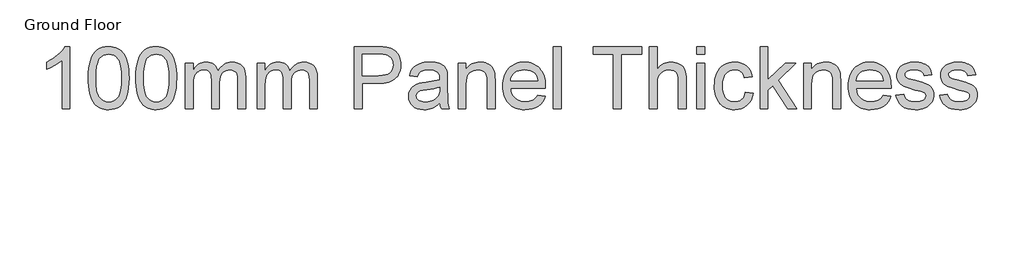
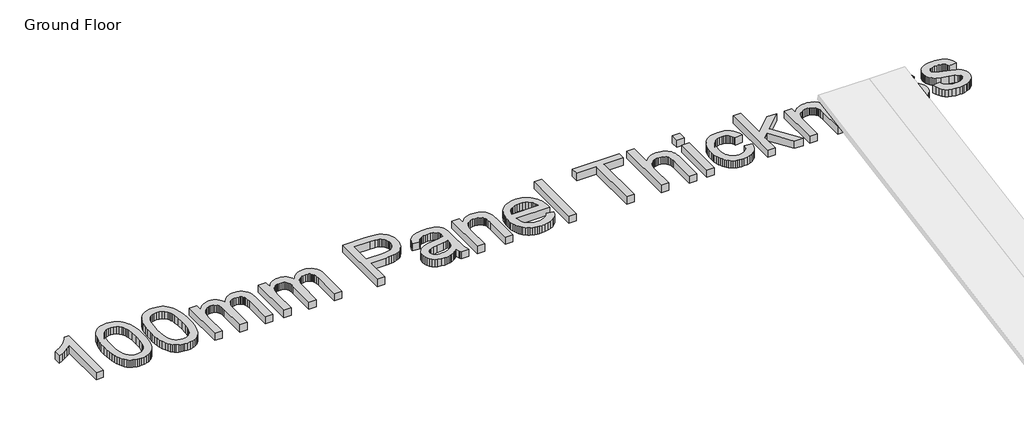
# One storey, part 5 of 5: 1 proxy.
"""IFC4 building model written with IfcOpenShell, lengths in millimetres."""

from ifc_helpers import new_model, si_unit, origin, origin_with_axes, place, context, project, spatial, polyline, outline, extrude, element, save

model = new_model("IFC4")

# Units and contexts
model_context = context("Model", 3, world=origin())
ifc_project = project(units=[si_unit("LENGTHUNIT", "METRE", prefix="MILLI")], contexts=[model_context])

# Site, building, storey
site = spatial("IfcSite", under=ifc_project)
building = spatial("IfcBuilding", under=site)
storey = spatial("IfcBuildingStorey", under=building, Name="Ground Floor", Elevation=0.0)

# Proxy
placement = place(None, origin())
element("IfcBuildingElementProxy", 1, Name="1200mm Arial", ObjectType="1200mm Arial", at=placement, inside=storey, context=model_context, shape_type="SweptSolid", body=[
    extrude(outline(polyline([(13867.9925063, -37488.8663729), (13721.0834154, -37488.8663729), (13721.0834154, -36572.9800092), (13659.7517393, -36622.5833473), (13581.9214836, -36672.1149524), (13500.2176484, -36715.4057905), (13427.2652336, -36746.2868274), (13427.2652336, -36607.4118274), (13486.8842854, -36577.5171186), (13542.647691, -36544.6454922), (13594.5554502, -36508.7969481), (13642.6075631, -36469.9714865), (13685.3693707, -36429.9624311), (13721.4062137, -36390.5631058), (13750.7180922, -36351.7735106), (13773.3050063, -36313.5936456), (13867.9925063, -36313.5936456), (13867.9925063, -37488.8663729)])), origin_with_axes(), (0.0, 0.0, 1.0), 150.0),
    extrude(outline(polyline([(14216.9015972, -36910.6987592), (14219.6005496, -36811.8776477), (14227.6974069, -36722.5790859), (14241.1921689, -36642.8030739), (14260.0848359, -36572.5496115), (14284.294708, -36511.2448352), (14313.7410859, -36458.3148814), (14348.4239694, -36413.75975), (14388.3433586, -36377.579441), (14433.6337528, -36349.5856555), (14484.4296512, -36329.5900945), (14540.7310539, -36317.5927578), (14602.5379609, -36313.5936456), (14648.9850489, -36315.9608331), (14693.0649495, -36323.0623956), (14734.7776626, -36334.8983331), (14774.1231881, -36351.4686456), (14810.1510645, -36372.4953679), (14841.9108302, -36397.7005348), (14869.402485, -36427.0841463), (14892.626029, -36460.6462024), (14912.7471228, -36498.2522038), (14930.9314268, -36539.7676513), (14961.4896654, -36634.5268842), (14973.1642037, -36690.2544233), (14981.5031597, -36754.8589155), (14986.5065333, -36828.3403608), (14988.1743245, -36910.6987592), (14985.5022719, -37008.8922074), (14977.4861143, -37097.7424382), (14964.1258515, -37177.2494517), (14945.4214836, -37247.4132479), (14921.3999104, -37308.744924), (14892.0880319, -37361.7555774), (14857.4858479, -37406.4452081), (14817.5933586, -37442.813816), (14772.2491647, -37470.9959006), (14721.2918671, -37491.1259609), (14664.7214658, -37503.2039972), (14602.5379609, -37507.2300092), (14560.9328472, -37505.4815185), (14521.6231881, -37500.2360462), (14484.6089836, -37491.4935923), (14449.8902336, -37479.254157), (14417.4669381, -37463.51774), (14387.3390972, -37444.2843416), (14359.5067109, -37421.5539616), (14333.969779, -37395.3266001), (14306.5319239, -37353.7977028), (14282.7524495, -37306.8260675), (14262.6313557, -37254.4116942), (14246.1686427, -37196.5545831), (14233.3643103, -37133.254734), (14224.2183586, -37064.512147), (14218.7307876, -36990.3268221), (14216.9015972, -36910.6987592)]), holes=[polyline([(14363.8106881, -36910.4118274), (14368.1146654, -37038.1233864), (14381.0265972, -37141.4995405), (14390.7105461, -37184.0618407), (14402.5464836, -37220.5402898), (14416.5344097, -37250.9348876), (14432.6743245, -37275.2456342), (14469.1146654, -37312.466071), (14509.5720518, -37339.0520973), (14554.0464836, -37355.0037131), (14602.5379609, -37360.3209183), (14651.0294381, -37354.9857798), (14695.5038699, -37338.9803643), (14735.9612563, -37312.3046719), (14772.4015972, -37274.9587024), (14788.541512, -37250.5896728), (14802.5294381, -37220.1636918), (14814.3653756, -37183.6807594), (14824.0493245, -37141.1408757), (14836.9612563, -37037.8902543), (14841.2652336, -36910.4118274), (14837.1047222, -36786.0806839), (14824.6231881, -36684.5247535), (14815.2620376, -36642.2874932), (14803.8206313, -36605.7440362), (14790.2989694, -36574.8943824), (14774.6970518, -36549.738532), (14738.866441, -36510.6978714), (14697.9427904, -36482.8116854), (14651.9261001, -36466.0799737), (14600.8163699, -36460.5027365), (14552.575958, -36465.4164439), (14508.8547222, -36480.157566), (14469.6526626, -36504.726103), (14434.969779, -36539.1220547), (14418.2918671, -36566.954441), (14403.8376768, -36600.095066), (14391.607208, -36638.5439297), (14381.6004609, -36682.301032), (14368.2581313, -36785.7399524), (14363.8106881, -36910.4118274)])]), origin_with_axes(), (0.0, 0.0, 1.0), 150.0),
    extrude(outline(polyline([(15116.719779, -36910.6987592), (15119.4187314, -36811.8776477), (15127.5155887, -36722.5790859), (15141.0103508, -36642.8030739), (15159.9030177, -36572.5496115), (15184.1128898, -36511.2448352), (15213.5592677, -36458.3148814), (15248.2421512, -36413.75975), (15288.1615404, -36377.579441), (15333.4519346, -36349.5856555), (15384.247833, -36329.5900945), (15440.5492357, -36317.5927578), (15502.3561427, -36313.5936456), (15548.8032307, -36315.9608331), (15592.8831313, -36323.0623956), (15634.5958444, -36334.8983331), (15673.9413699, -36351.4686456), (15709.9692464, -36372.4953679), (15741.729012, -36397.7005348), (15769.2206668, -36427.0841463), (15792.4442109, -36460.6462024), (15812.5653046, -36498.2522038), (15830.7496086, -36539.7676513), (15861.3078472, -36634.5268842), (15872.9823856, -36690.2544233), (15881.3213415, -36754.8589155), (15886.3247151, -36828.3403608), (15887.9925063, -36910.6987592), (15885.3204537, -37008.8922074), (15877.3042961, -37097.7424382), (15863.9440333, -37177.2494517), (15845.2396654, -37247.4132479), (15821.2180922, -37308.744924), (15791.9062137, -37361.7555774), (15757.3040297, -37406.4452081), (15717.4115404, -37442.813816), (15672.0673465, -37470.9959006), (15621.1100489, -37491.1259609), (15564.5396476, -37503.2039972), (15502.3561427, -37507.2300092), (15460.751029, -37505.4815185), (15421.4413699, -37500.2360462), (15384.4271654, -37491.4935923), (15349.7084154, -37479.254157), (15317.2851199, -37463.51774), (15287.157279, -37444.2843416), (15259.3248927, -37421.5539616), (15233.7879609, -37395.3266001), (15206.3501057, -37353.7977028), (15182.5706313, -37306.8260675), (15162.4495376, -37254.4116942), (15145.9868245, -37196.5545831), (15133.1824921, -37133.254734), (15124.0365404, -37064.512147), (15118.5489694, -36990.3268221), (15116.719779, -36910.6987592)]), holes=[polyline([(15263.6288699, -36910.4118274), (15267.9328472, -37038.1233864), (15280.844779, -37141.4995405), (15290.5287279, -37184.0618407), (15302.3646654, -37220.5402898), (15316.3525915, -37250.9348876), (15332.4925063, -37275.2456342), (15368.9328472, -37312.466071), (15409.3902336, -37339.0520973), (15453.8646654, -37355.0037131), (15502.3561427, -37360.3209183), (15550.8476199, -37354.9857798), (15595.3220518, -37338.9803643), (15635.7794381, -37312.3046719), (15672.219779, -37274.9587024), (15688.3596938, -37250.5896728), (15702.3476199, -37220.1636918), (15714.1835574, -37183.6807594), (15723.8675063, -37141.1408757), (15736.7794381, -37037.8902543), (15741.0834154, -36910.4118274), (15736.922904, -36786.0806839), (15724.4413699, -36684.5247535), (15715.0802194, -36642.2874932), (15703.6388131, -36605.7440362), (15690.1171512, -36574.8943824), (15674.5152336, -36549.738532), (15638.6846228, -36510.6978714), (15597.7609722, -36482.8116854), (15551.7442819, -36466.0799737), (15500.6345518, -36460.5027365), (15452.3941398, -36465.4164439), (15408.672904, -36480.157566), (15369.4708444, -36504.726103), (15334.7879609, -36539.1220547), (15318.1100489, -36566.954441), (15303.6558586, -36600.095066), (15291.4253898, -36638.5439297), (15281.4186427, -36682.301032), (15268.0763131, -36785.7399524), (15263.6288699, -36910.4118274)])]), origin_with_axes(), (0.0, 0.0, 1.0), 150.0),
    extrude(outline(polyline([(16053.2652336, -37488.8663729), (16053.2652336, -36625.7754638), (16200.1743245, -36625.7754638), (16200.1743245, -36767.8067138), (16220.6899495, -36733.4197287), (16244.3618245, -36702.5655916), (16271.1899495, -36675.2443025), (16301.1743245, -36651.4558615), (16333.830752, -36632.1865966), (16368.6750347, -36618.4228359), (16405.7071725, -36610.1645795), (16444.9271654, -36607.4118274), (16487.805539, -36610.2183793), (16526.6310006, -36618.6380348), (16561.4035503, -36632.670794), (16592.1231881, -36652.316657), (16618.7002478, -36677.0196932), (16641.0450631, -36706.2239723), (16659.1576341, -36739.9294943), (16673.0379609, -36778.1362592), (16698.8707911, -36738.1227205), (16726.5866114, -36703.4443203), (16756.1854218, -36674.1010586), (16787.6672222, -36650.0929354), (16821.0320127, -36631.4199506), (16856.2797932, -36618.0821044), (16893.4105638, -36610.0793967), (16932.4243245, -36607.4118274), (16991.2363806, -36611.850304), (17042.857208, -36625.1657337), (17087.2868067, -36647.3581165), (17124.5251768, -36678.4274524), (17153.962588, -36718.7324062), (17174.9893103, -36768.6316427), (17187.6053437, -36828.1251619), (17191.8106881, -36897.2129638), (17191.8106881, -37488.8663729), (17044.9015972, -37488.8663729), (17044.9015972, -36960.3379638), (17041.4942819, -36887.0627507), (17031.2723359, -36837.6746115), (17023.0768458, -36819.8579389), (17012.119637, -36803.8525234), (16998.4007094, -36789.658365), (16981.9200631, -36777.2754638), (16963.2784616, -36767.2328501), (16943.0766682, -36760.0595547), (16897.9925063, -36754.3209183), (16856.3604928, -36757.9972322), (16818.4047932, -36769.026174), (16784.1254076, -36787.4077436), (16753.5223359, -36813.141941), (16728.3530354, -36846.9819623), (16710.3749637, -36889.6810035), (16699.5881207, -36941.2390646), (16695.9925063, -37001.6561456), (16695.9925063, -37488.8663729), (16549.0834154, -37488.8663729), (16549.0834154, -36943.9828501), (16546.9583266, -36899.4725518), (16540.5830603, -36860.9160888), (16529.9576164, -36828.3134609), (16515.0819949, -36801.6646683), (16495.3643991, -36780.9517777), (16470.2130319, -36766.1568558), (16439.6278934, -36757.2799027), (16403.6089836, -36754.3209183), (16374.7544026, -36756.2935746), (16347.0116824, -36762.2115433), (16320.3808231, -36772.0748246), (16294.8618245, -36785.8834183), (16271.6203472, -36803.4938587), (16251.8220518, -36824.7626797), (16235.4669381, -36849.6898814), (16222.5550063, -36878.2754638), (16212.763458, -36912.0437521), (16205.7694949, -36952.5190717), (16200.1743245, -37053.5908047), (16200.1743245, -37488.8663729), (16053.2652336, -37488.8663729)])), origin_with_axes(), (0.0, 0.0, 1.0), 150.0),
    extrude(outline(polyline([(17412.1743245, -37488.8663729), (17412.1743245, -36625.7754638), (17559.0834154, -36625.7754638), (17559.0834154, -36767.8067138), (17579.5990404, -36733.4197287), (17603.2709154, -36702.5655916), (17630.0990404, -36675.2443025), (17660.0834154, -36651.4558615), (17692.739843, -36632.1865966), (17727.5841256, -36618.4228359), (17764.6162634, -36610.1645795), (17803.8362563, -36607.4118274), (17846.7146299, -36610.2183793), (17885.5400915, -36618.6380348), (17920.3126412, -36632.670794), (17951.032279, -36652.316657), (17977.6093387, -36677.0196932), (17999.954154, -36706.2239723), (18018.0667251, -36739.9294943), (18031.9470518, -36778.1362592), (18057.779882, -36738.1227205), (18085.4957023, -36703.4443203), (18115.0945127, -36674.1010586), (18146.5763131, -36650.0929354), (18179.9411036, -36631.4199506), (18215.1888841, -36618.0821044), (18252.3196547, -36610.0793967), (18291.3334154, -36607.4118274), (18350.1454715, -36611.850304), (18401.7662989, -36625.1657337), (18446.1958976, -36647.3581165), (18483.4342677, -36678.4274524), (18512.8716789, -36718.7324062), (18533.8984012, -36768.6316427), (18546.5144346, -36828.1251619), (18550.719779, -36897.2129638), (18550.719779, -37488.8663729), (18403.8106881, -37488.8663729), (18403.8106881, -36960.3379638), (18400.4033728, -36887.0627507), (18390.1814268, -36837.6746115), (18381.9859367, -36819.8579389), (18371.0287279, -36803.8525234), (18357.3098003, -36789.658365), (18340.829154, -36777.2754638), (18322.1875525, -36767.2328501), (18301.9857591, -36760.0595547), (18256.9015972, -36754.3209183), (18215.2695837, -36757.9972322), (18177.3138841, -36769.026174), (18143.0344985, -36787.4077436), (18112.4314268, -36813.141941), (18087.2621263, -36846.9819623), (18069.2840546, -36889.6810035), (18058.4972116, -36941.2390646), (18054.9015972, -37001.6561456), (18054.9015972, -37488.8663729), (17907.9925063, -37488.8663729), (17907.9925063, -36943.9828501), (17905.8674175, -36899.4725518), (17899.4921512, -36860.9160888), (17888.8667073, -36828.3134609), (17873.9910859, -36801.6646683), (17854.27349, -36780.9517777), (17829.1221228, -36766.1568558), (17798.5369843, -36757.2799027), (17762.5180745, -36754.3209183), (17733.6634935, -36756.2935746), (17705.9207734, -36762.2115433), (17679.289914, -36772.0748246), (17653.7709154, -36785.8834183), (17630.5294381, -36803.4938587), (17610.7311427, -36824.7626797), (17594.376029, -36849.6898814), (17581.4640972, -36878.2754638), (17571.6725489, -36912.0437521), (17564.6785859, -36952.5190717), (17559.0834154, -37053.5908047), (17559.0834154, -37488.8663729), (17412.1743245, -37488.8663729)])), origin_with_axes(), (0.0, 0.0, 1.0), 150.0),
    extrude(outline(polyline([(19248.5379609, -37488.8663729), (19248.5379609, -36313.5936456), (19684.1004609, -36313.5936456), (19785.5308586, -36316.3912308), (19859.7027336, -36324.7839865), (19900.581551, -36333.5981733), (19937.9992535, -36345.6941427), (19971.9558408, -36361.0718949), (20002.4513131, -36379.7314297), (20029.8084687, -36402.0583118), (20054.3501057, -36428.4381058), (20076.0762243, -36458.8708118), (20094.9868245, -36493.3564297), (20110.3018103, -36530.7561989), (20121.2410859, -36569.9313587), (20127.8046512, -36610.8819091), (20129.9925063, -36653.6078501), (20124.0835042, -36725.7532692), (20116.6972515, -36759.6605401), (20106.3564978, -36792.1241854), (20093.061243, -36823.1442049), (20076.8114871, -36852.7205987), (20057.6072302, -36880.8533668), (20035.4484722, -36907.5425092), (20009.4340679, -36931.8868807), (19978.6628721, -36952.9853359), (19943.1348847, -36970.837875), (19902.8501057, -36985.4444979), (19857.8085352, -36996.8052045), (19808.0101732, -37004.919995), (19753.4550196, -37009.7888693), (19694.1430745, -37011.4118274), (19395.4470518, -37011.4118274), (19395.4470518, -37488.8663729), (19248.5379609, -37488.8663729)]), holes=[polyline([(19395.4470518, -36864.5027365), (19702.751029, -36864.5027365), (19773.4079893, -36861.1312876), (19833.0180745, -36851.016941), (19881.5812847, -36834.1596967), (19919.0976199, -36810.5595547), (19947.0914055, -36780.8441783), (19967.0869665, -36745.6412308), (19979.0843032, -36704.9507123), (19983.0834154, -36658.7726229), (19980.7251945, -36624.4842706), (19973.6505319, -36592.7783047), (19961.8594275, -36563.6547251), (19945.3518813, -36537.113532), (19925.0066221, -36514.0155206), (19901.7023785, -36495.2214865), (19875.4391505, -36480.7314297), (19846.2169381, -36470.5453501), (19789.547904, -36463.0133899), (19699.3078472, -36460.5027365), (19395.4470518, -36460.5027365), (19395.4470518, -36864.5027365)])]), origin_with_axes(), (0.0, 0.0, 1.0), 150.0),
    extrude(outline(polyline([(20864.5379609, -37378.6845547), (20829.7026448, -37411.3768487), (20794.3472648, -37438.8685035), (20758.4718209, -37461.1595192), (20722.0763131, -37478.2498956), (20684.7482769, -37490.9286953), (20646.0752478, -37499.9849808), (20606.0572258, -37505.4187521), (20564.6942109, -37507.2300092), (20499.2827229, -37502.8722322), (20441.9232591, -37489.7989013), (20392.6158195, -37468.0100163), (20351.360404, -37437.5055774), (20318.784676, -37400.2223743), (20295.5162989, -37358.0971967), (20281.5552726, -37311.1300447), (20276.9015972, -37259.3209183), (20278.6590546, -37228.1708828), (20283.9314268, -37198.4196399), (20292.7187137, -37170.0671896), (20305.0209154, -37143.113532), (20320.1834687, -37118.1504638), (20337.5518103, -37095.769782), (20357.1259403, -37075.9714865), (20378.9058586, -37058.7555774), (20427.5049353, -37030.7797251), (20481.7709154, -37010.551032), (20534.6381029, -36999.2889581), (20608.8817109, -36988.457282), (20759.0905177, -36965.2158047), (20817.0866114, -36952.088674), (20863.6771654, -36937.957282), (20864.5379609, -36905.2470547), (20862.0093742, -36869.6316427), (20854.4236143, -36839.6831342), (20841.780681, -36815.4015291), (20824.0805745, -36796.7868274), (20793.4864694, -36778.2079922), (20756.2211995, -36764.9373956), (20712.2847648, -36756.9750376), (20661.6771654, -36754.3209183), (20614.6203472, -36756.0873423), (20574.1629609, -36761.3866143), (20540.3050063, -36770.2187344), (20513.0464836, -36782.5837024), (20490.6478685, -36799.4499133), (20471.369637, -36821.7857621), (20455.211789, -36849.5912486), (20442.1743245, -36882.8663729), (20295.2652336, -36864.5027365), (20306.4466079, -36822.1802933), (20320.7662989, -36784.1618274), (20338.2243067, -36750.4473388), (20358.8206313, -36721.0368274), (20383.442968, -36695.3384964), (20412.979012, -36672.760549), (20447.4287634, -36653.3029851), (20486.7922222, -36636.9658047), (20530.2713593, -36624.0359396), (20577.0681455, -36614.8003217), (20627.1825809, -36609.258951), (20680.6146654, -36607.4118274), (20732.8452229, -36609.0437521), (20779.928941, -36613.9395263), (20821.8658195, -36622.0991498), (20858.6558586, -36633.5226229), (20890.6039232, -36647.4119162), (20918.0148785, -36662.9690007), (20940.8887243, -36680.1938764), (20959.2254609, -36699.0865433), (20974.0921157, -36720.1132656), (20986.5557165, -36743.7403075), (21004.2737563, -36798.7953501), (21009.6537279, -36849.582282), (21011.4470518, -36927.3408047), (21011.4470518, -37110.1163729), (21013.3121086, -37269.3276655), (21018.907279, -37365.3422251), (21029.954154, -37428.4313587), (21048.1743245, -37488.8663729), (20901.2652336, -37488.8663729), (20888.2098359, -37464.3337024), (20877.7368245, -37437.7925092), (20864.5379609, -37378.6845547)]), holes=[polyline([(20864.5379609, -37084.8663729), (20820.135262, -37097.5810391), (20765.8334154, -37109.3273104), (20627.532279, -37129.9146683), (20551.3160148, -37141.1767422), (20501.1388131, -37153.7300092), (20468.2492535, -37170.0133899), (20443.8959154, -37192.4658047), (20428.8319949, -37219.3656626), (20423.8106881, -37248.9913729), (20426.545507, -37271.8203856), (20434.7499637, -37292.6767422), (20448.4240582, -37311.5604425), (20467.5677904, -37328.4714865), (20492.001828, -37342.4056129), (20521.5468387, -37352.3585604), (20556.2028224, -37358.3303288), (20595.969779, -37360.3209183), (20636.5706313, -37358.1240966), (20674.876029, -37351.5336314), (20710.8859722, -37340.5495227), (20744.6004609, -37325.1717706), (20775.0152336, -37306.6736349), (20801.126029, -37286.3283757), (20822.9328472, -37264.1359929), (20840.4356881, -37240.0964865), (20850.6038344, -37218.5766001), (20857.8667961, -37192.4658047), (20862.2245731, -37161.7641001), (20863.6771654, -37126.4714865), (20864.5379609, -37084.8663729)])]), origin_with_axes(), (0.0, 0.0, 1.0), 150.0),
    extrude(outline(polyline([(21213.4470518, -37488.8663729), (21213.4470518, -36625.7754638), (21360.3561427, -36625.7754638), (21360.3561427, -36746.2868274), (21384.5929147, -36713.7379993), (21411.3941398, -36685.5290149), (21440.7598181, -36661.6598743), (21472.6899495, -36642.1305774), (21507.184534, -36626.9411243), (21544.2435716, -36616.0915149), (21583.8670624, -36609.5817493), (21626.0550063, -36607.4118274), (21663.0243778, -36609.1603182), (21698.4694239, -36614.4057905), (21732.3901448, -36623.1482443), (21764.7865404, -36635.3876797), (21794.4301839, -36650.4695334), (21820.0926484, -36667.7392422), (21841.7739339, -36687.1968061), (21859.4740404, -36708.8422251), (21886.194566, -36758.5890291), (21903.5180745, -36816.8720547), (21909.3284438, -36872.6085604), (21911.2652336, -36958.9033047), (21911.2652336, -37488.8663729), (21764.3561427, -37488.8663729), (21764.3561427, -36978.7016001), (21760.1238984, -36902.7364013), (21754.833593, -36872.9851584), (21747.4271654, -36848.7214865), (21737.3397187, -36828.2865611), (21724.0063557, -36810.0215575), (21707.4270766, -36793.9264758), (21687.6018813, -36780.001316), (21665.2122329, -36768.766142), (21640.9395944, -36760.7410177), (21614.7839658, -36755.9259432), (21586.7453472, -36754.3209183), (21542.1364161, -36757.9254993), (21500.7016682, -36768.7392422), (21462.4411036, -36786.762147), (21427.3547222, -36811.9942138), (21411.6519301, -36828.0310124), (21398.0428437, -36847.3047606), (21386.5274628, -36869.8154584), (21377.1057876, -36895.5631058), (21364.5435539, -36956.7692493), (21360.3561427, -37030.923191), (21360.3561427, -37488.8663729), (21213.4470518, -37488.8663729)])), origin_with_axes(), (0.0, 0.0, 1.0), 150.0),
    extrude(outline(polyline([(22717.5436427, -37231.7754638), (22861.5834154, -37250.1391001), (22839.498632, -37307.8303288), (22809.6846228, -37358.6710604), (22772.1413877, -37402.6612947), (22726.8689268, -37439.801032), (22674.3335042, -37469.3012095), (22615.0013841, -37490.3727649), (22548.8725667, -37503.0156981), (22475.9470518, -37507.2300092), (22429.127849, -37505.4120272), (22384.7923998, -37499.958081), (22342.9407041, -37490.8681706), (22303.572762, -37478.1422962), (22266.6885734, -37461.7804576), (22232.2881384, -37441.7826548), (22200.3714569, -37418.148888), (22170.938529, -37390.879157), (22144.5094186, -37360.3276433), (22121.6041895, -37326.8485284), (22102.2228419, -37290.4418123), (22086.3653756, -37251.107495), (22074.0317908, -37208.8455765), (22065.2220873, -37163.6560568), (22059.9362652, -37115.5389359), (22058.1743245, -37064.4942138), (22059.9541984, -37011.7122092), (22065.2938202, -36961.9698885), (22074.1931899, -36915.2672518), (22086.6523074, -36871.604299), (22102.6711729, -36830.9810302), (22122.2497861, -36793.3974453), (22145.3881473, -36758.8535444), (22172.0862563, -36727.3493274), (22201.6223003, -36699.2389758), (22233.2744665, -36674.8766712), (22267.0427549, -36654.2624133), (22302.9271654, -36637.3962024), (22340.9276981, -36624.2780383), (22381.0443529, -36614.9079212), (22423.2771299, -36609.2858508), (22467.626029, -36607.4118274), (22510.5245775, -36609.2813675), (22551.4190866, -36614.8899879), (22590.3095562, -36624.2376886), (22627.1959864, -36637.3244695), (22662.0783772, -36654.1503306), (22694.9567286, -36674.715272), (22725.8310406, -36699.0192937), (22754.7013131, -36727.0623956), (22780.8278002, -36758.4948796), (22803.4707556, -36792.9670476), (22822.6301794, -36830.4788995), (22838.3060716, -36871.0304354), (22850.4984323, -36914.6216552), (22859.2072613, -36961.2525589), (22864.4325587, -37010.9231467), (22866.1743245, -37063.6334183), (22865.313529, -37103.2300092), (22205.0834154, -37103.2300092), (22213.5927371, -37161.8537663), (22230.5127478, -37213.1966285), (22255.8434474, -37257.2585959), (22289.5848359, -37294.0396683), (22329.8718564, -37323.0377152), (22374.8394523, -37343.7506058), (22424.4876235, -37356.1783402), (22478.8163699, -37360.3209183), (22519.4530887, -37358.4020618), (22557.0052904, -37352.6454922), (22591.4729751, -37343.0512095), (22622.8561427, -37329.6192138), (22651.1547932, -37311.9908402), (22676.3689268, -37289.807424), (22698.4985432, -37263.0689652), (22717.5436427, -37231.7754638)]), holes=[polyline([(22205.0834154, -36956.3209183), (22719.2652336, -36956.3209183), (22711.7153401, -36914.7516712), (22699.3952052, -36878.7058615), (22682.3048287, -36848.1834893), (22660.4442109, -36823.1845547), (22620.3813557, -36793.0567138), (22574.7950631, -36771.5368274), (22523.685333, -36758.6248956), (22467.0521654, -36754.3209183), (22415.3954715, -36757.7551335), (22368.0248216, -36768.0577791), (22324.9402158, -36785.2288551), (22286.141654, -36809.2683615), (22253.5838593, -36839.0644375), (22229.2215546, -36873.5052223), (22213.05474, -36912.5907159), (22205.0834154, -36956.3209183)])]), origin_with_axes(), (0.0, 0.0, 1.0), 150.0),
    extrude(outline(polyline([(23013.0834154, -37488.8663729), (23013.0834154, -36313.5936456), (23159.9925063, -36313.5936456), (23159.9925063, -37488.8663729), (23013.0834154, -37488.8663729)])), origin_with_axes(), (0.0, 0.0, 1.0), 150.0),
    extrude(outline(polyline([(24151.6288699, -37488.8663729), (24151.6288699, -36460.5027365), (23765.9925063, -36460.5027365), (23765.9925063, -36313.5936456), (24684.1743245, -36313.5936456), (24684.1743245, -36460.5027365), (24298.5379609, -36460.5027365), (24298.5379609, -37488.8663729), (24151.6288699, -37488.8663729)])), origin_with_axes(), (0.0, 0.0, 1.0), 150.0),
    extrude(outline(polyline([(24831.0834154, -37488.8663729), (24831.0834154, -36313.5936456), (24977.9925063, -36313.5936456), (24977.9925063, -36745.7129638), (25004.1436515, -36713.2986349), (25031.9536214, -36685.2062166), (25061.4224158, -36661.4357088), (25092.5500347, -36641.9871115), (25125.3364783, -36626.8604247), (25159.7817464, -36616.0556484), (25195.885839, -36609.5727827), (25233.6487563, -36607.4118274), (25279.5757805, -36609.7700483), (25322.3824211, -36616.8447109), (25362.0686782, -36628.6358153), (25398.6345518, -36645.1433615), (25431.1475134, -36665.811419), (25458.6750347, -36690.0840575), (25481.2171157, -36717.961277), (25498.7737563, -36749.4430774), (25511.9546867, -36786.4752152), (25521.369637, -36831.0034467), (25527.0186072, -36883.027772), (25528.9015972, -36942.548191), (25528.9015972, -37488.8663729), (25381.9925063, -37488.8663729), (25381.9925063, -36957.7555774), (25379.0693884, -36908.1522393), (25370.3000347, -36865.7939297), (25355.6844452, -36830.6806484), (25335.2226199, -36802.8123956), (25309.3987563, -36781.5973743), (25278.6970518, -36766.4437876), (25243.1175063, -36757.3516356), (25202.6601199, -36754.3209183), (25171.142453, -36756.3653075), (25140.5752478, -36762.4984751), (25110.9585042, -36772.7204212), (25082.2922222, -36787.0311456), (25056.127627, -36804.8388516), (25034.0159438, -36825.5517422), (25015.9571725, -36849.1698175), (25001.9513131, -36875.6930774), (24991.4693351, -36906.3409822), (24983.982208, -36942.3329922), (24979.4899317, -36983.6691072), (24977.9925063, -37030.3493274), (24977.9925063, -37488.8663729), (24831.0834154, -37488.8663729)])), origin_with_axes(), (0.0, 0.0, 1.0), 150.0),
    extrude(outline(polyline([(25730.9015972, -37488.8663729), (25730.9015972, -36625.7754638), (25877.8106881, -36625.7754638), (25877.8106881, -37488.8663729), (25730.9015972, -37488.8663729)])), origin_with_axes(), (0.0, 0.0, 1.0), 150.0),
    extrude(outline(polyline([(25730.9015972, -36460.5027365), (25730.9015972, -36313.5936456), (25877.8106881, -36313.5936456), (25877.8106881, -36460.5027365), (25730.9015972, -36460.5027365)])), origin_with_axes(), (0.0, 0.0, 1.0), 150.0),
    extrude(outline(polyline([(26649.0834154, -37176.6845547), (26795.9925063, -37195.048191), (26780.0139907, -37264.369125), (26755.0329893, -37325.7097677), (26721.049502, -37379.0701193), (26678.063529, -37424.4501797), (26627.8863273, -37460.6663551), (26572.329154, -37486.5350518), (26511.3920091, -37502.0562699), (26445.0748927, -37507.2300092), (26402.8129742, -37505.4254771), (26362.6806278, -37500.0118807), (26324.6778534, -37490.98922), (26288.8046512, -37478.357495), (26255.061021, -37462.1167058), (26223.446963, -37442.2668523), (26193.962477, -37418.8079345), (26166.6075631, -37391.7399524), (26141.9605683, -37361.3005215), (26120.5998394, -37327.7272571), (26102.5253765, -37291.0201593), (26087.7371796, -37251.179228), (26076.2352487, -37208.2044632), (26068.0195837, -37162.095865), (26063.0901848, -37112.8534334), (26061.4470518, -37060.4771683), (26064.2536036, -36992.931625), (26072.6732591, -36929.7438587), (26086.7060184, -36870.9138693), (26106.3518813, -36816.441657), (26131.7453472, -36767.4211491), (26163.0209154, -36724.9462734), (26200.1785859, -36689.0170298), (26243.2183586, -36659.6334183), (26290.1944772, -36636.7864723), (26339.1611853, -36620.4672251), (26390.1184829, -36610.6756768), (26443.0663699, -36607.4118274), (26508.2447258, -36611.8951371), (26567.2002478, -36625.345066), (26619.932936, -36647.7616143), (26666.4427904, -36679.144782), (26705.9407485, -36718.7772393), (26737.6377478, -36765.941657), (26761.5337883, -36820.6380348), (26777.6288699, -36882.8663729), (26630.719779, -36901.2300092), (26619.2514729, -36866.9147571), (26604.0709864, -36837.1366143), (26585.1783195, -36811.895581), (26562.5734722, -36791.191657), (26536.8303082, -36775.0607088), (26508.522691, -36763.538603), (26477.6506207, -36756.6253395), (26444.2140972, -36754.3209183), (26394.2969275, -36758.8580277), (26349.2755319, -36772.4693558), (26309.1499104, -36795.1549027), (26273.9200631, -36826.9146683), (26258.5535193, -36846.3811989), (26245.2358479, -36868.4839155), (26224.7471228, -36920.597907), (26212.4538877, -36983.2566427), (26208.3561427, -37056.4601229), (26212.3642215, -37130.7664972), (26224.388458, -37194.1515291), (26244.4288522, -37246.6152187), (26257.4551084, -37268.7515602), (26272.485404, -37288.157566), (26307.015855, -37319.7290327), (26346.4779466, -37342.2800802), (26390.8716789, -37355.8107088), (26440.1970518, -37360.3209183), (26479.9460752, -37357.5053998), (26516.2698501, -37349.0588445), (26549.1683763, -37334.9812521), (26578.641654, -37315.2726229), (26603.8647542, -37289.7177578), (26624.0127478, -37258.1014581), (26639.0856349, -37220.4237237), (26649.0834154, -37176.6845547)])), origin_with_axes(), (0.0, 0.0, 1.0), 150.0),
    extrude(outline(polyline([(26924.5379609, -37488.8663729), (26924.5379609, -36313.5936456), (27071.4470518, -36313.5936456), (27071.4470518, -36945.1305774), (27400.844779, -36625.7754638), (27603.9925063, -36625.7754638), (27270.5777336, -36949.1476229), (27622.3561427, -37488.8663729), (27450.7709154, -37488.8663729), (27165.2737563, -37051.2953501), (27071.4470518, -37142.2527365), (27071.4470518, -37488.8663729), (26924.5379609, -37488.8663729)])), origin_with_axes(), (0.0, 0.0, 1.0), 150.0),
    extrude(outline(polyline([(27750.9015972, -37488.8663729), (27750.9015972, -36625.7754638), (27897.8106881, -36625.7754638), (27897.8106881, -36746.2868274), (27922.0474601, -36713.7379993), (27948.8486853, -36685.5290149), (27978.2143635, -36661.6598743), (28010.1444949, -36642.1305774), (28044.6390795, -36626.9411243), (28081.6981171, -36616.0915149), (28121.3216079, -36609.5817493), (28163.5095518, -36607.4118274), (28200.4789232, -36609.1603182), (28235.9239694, -36614.4057905), (28269.8446903, -36623.1482443), (28302.2410859, -36635.3876797), (28331.8847293, -36650.4695334), (28357.5471938, -36667.7392422), (28379.2284793, -36687.1968061), (28396.9285859, -36708.8422251), (28423.6491114, -36758.5890291), (28440.9726199, -36816.8720547), (28446.7829893, -36872.6085604), (28448.719779, -36958.9033047), (28448.719779, -37488.8663729), (28301.8106881, -37488.8663729), (28301.8106881, -36978.7016001), (28297.5784438, -36902.7364013), (28292.2881384, -36872.9851584), (28284.8817109, -36848.7214865), (28274.7942641, -36828.2865611), (28261.4609012, -36810.0215575), (28244.8816221, -36793.9264758), (28225.0564268, -36780.001316), (28202.6667783, -36768.766142), (28178.3941398, -36760.7410177), (28152.2385113, -36755.9259432), (28124.1998927, -36754.3209183), (28079.5909616, -36757.9254993), (28038.1562137, -36768.7392422), (27999.8956491, -36786.762147), (27964.8092677, -36811.9942138), (27949.1064756, -36828.0310124), (27935.4973891, -36847.3047606), (27923.9820083, -36869.8154584), (27914.560333, -36895.5631058), (27901.9980993, -36956.7692493), (27897.8106881, -37030.923191), (27897.8106881, -37488.8663729), (27750.9015972, -37488.8663729)])), origin_with_axes(), (0.0, 0.0, 1.0), 150.0),
    extrude(outline(polyline([(29254.9981881, -37231.7754638), (29399.0379609, -37250.1391001), (29376.9531775, -37307.8303288), (29347.1391682, -37358.6710604), (29309.5959332, -37402.6612947), (29264.3234722, -37439.801032), (29211.7880496, -37469.3012095), (29152.4559296, -37490.3727649), (29086.3271121, -37503.0156981), (29013.4015972, -37507.2300092), (28966.5823944, -37505.4120272), (28922.2469452, -37499.958081), (28880.3952496, -37490.8681706), (28841.0273074, -37478.1422962), (28804.1431189, -37461.7804576), (28769.7426839, -37441.7826548), (28737.8260024, -37418.148888), (28708.3930745, -37390.879157), (28681.963964, -37360.3276433), (28659.058735, -37326.8485284), (28639.6773873, -37290.4418123), (28623.8199211, -37251.107495), (28611.4863362, -37208.8455765), (28602.6766327, -37163.6560568), (28597.3908106, -37115.5389359), (28595.6288699, -37064.4942138), (28597.4087439, -37011.7122092), (28602.7483657, -36961.9698885), (28611.6477354, -36915.2672518), (28624.1068529, -36871.604299), (28640.1257183, -36830.9810302), (28659.7043316, -36793.3974453), (28682.8426927, -36758.8535444), (28709.5408018, -36727.3493274), (28739.0768458, -36699.2389758), (28770.729012, -36674.8766712), (28804.4973003, -36654.2624133), (28840.3817109, -36637.3962024), (28878.3822435, -36624.2780383), (28918.4988984, -36614.9079212), (28960.7316753, -36609.2858508), (29005.0805745, -36607.4118274), (29047.979123, -36609.2813675), (29088.873632, -36614.8899879), (29127.7641017, -36624.2376886), (29164.6505319, -36637.3244695), (29199.5329227, -36654.1503306), (29232.4112741, -36674.715272), (29263.285586, -36699.0192937), (29292.1558586, -36727.0623956), (29318.2823456, -36758.4948796), (29340.925301, -36792.9670476), (29360.0847249, -36830.4788995), (29375.7606171, -36871.0304354), (29387.9529777, -36914.6216552), (29396.6618067, -36961.2525589), (29401.8871041, -37010.9231467), (29403.6288699, -37063.6334183), (29402.7680745, -37103.2300092), (28742.5379609, -37103.2300092), (28751.0472826, -37161.8537663), (28767.9672932, -37213.1966285), (28793.2979928, -37257.2585959), (28827.0393813, -37294.0396683), (28867.3264019, -37323.0377152), (28912.2939978, -37343.7506058), (28961.9421689, -37356.1783402), (29016.2709154, -37360.3209183), (29056.9076341, -37358.4020618), (29094.4598359, -37352.6454922), (29128.9275205, -37343.0512095), (29160.3106881, -37329.6192138), (29188.6093387, -37311.9908402), (29213.8234722, -37289.807424), (29235.9530887, -37263.0689652), (29254.9981881, -37231.7754638)]), holes=[polyline([(28742.5379609, -36956.3209183), (29256.719779, -36956.3209183), (29249.1698856, -36914.7516712), (29236.8497506, -36878.7058615), (29219.7593742, -36848.1834893), (29197.8987563, -36823.1845547), (29157.8359012, -36793.0567138), (29112.2496086, -36771.5368274), (29061.1398785, -36758.6248956), (29004.5067109, -36754.3209183), (28952.850017, -36757.7551335), (28905.4793671, -36768.0577791), (28862.3947613, -36785.2288551), (28823.5961995, -36809.2683615), (28791.0384047, -36839.0644375), (28766.6761001, -36873.5052223), (28750.5092854, -36912.5907159), (28742.5379609, -36956.3209183)])]), origin_with_axes(), (0.0, 0.0, 1.0), 150.0),
    extrude(outline(polyline([(29495.4470518, -37231.7754638), (29642.3561427, -37213.4118274), (29651.2330958, -37246.9111172), (29665.525887, -37276.2498956), (29685.2345162, -37301.4281626), (29710.3589836, -37322.4459183), (29740.9710219, -37339.0162308), (29777.1423643, -37350.8521683), (29818.8730106, -37357.9537308), (29866.1629609, -37360.3209183), (29913.3991114, -37358.1509964), (29954.1075631, -37351.6412308), (29988.288316, -37340.7916214), (30015.9413699, -37325.6021683), (30037.2819239, -37307.4895973), (30052.5251768, -37287.8706342), (30061.6711285, -37266.7452791), (30064.719779, -37244.113532), (30061.6531952, -37224.27937), (30052.4534438, -37206.6689297), (30037.1205248, -37191.2822109), (30015.6544381, -37178.1192138), (29960.635262, -37159.4686456), (29864.4413699, -37136.2271683), (29730.3724779, -37097.4555064), (29643.2169381, -37064.3507479), (29613.2953295, -37047.7535355), (29587.2293671, -37028.2332052), (29565.019051, -37005.7897571), (29546.6643813, -36980.423191), (29532.2908905, -36952.8956697), (29522.0241114, -36923.9693558), (29515.8640439, -36893.6442493), (29513.8106881, -36861.9203501), (29515.4605461, -36832.9133366), (29520.4101199, -36805.0002507), (29528.6594097, -36778.1810923), (29540.2084154, -36752.4558615), (29554.608806, -36728.3446222), (29571.4122506, -36706.3674382), (29590.6187492, -36686.5243097), (29612.2283018, -36668.8152365), (29652.7932876, -36645.179228), (29705.6246086, -36625.345066), (29766.7052194, -36611.8951371), (29832.0180745, -36607.4118274), (29881.3882805, -36609.2141179), (29927.6381029, -36614.6209893), (29970.7675418, -36623.6324418), (30010.7765972, -36636.2484751), (30046.7148074, -36651.9400589), (30077.6317109, -36670.1781626), (30103.5273074, -36690.9627862), (30124.4015972, -36714.2939297), (30141.3305745, -36740.9875554), (30155.3902336, -36771.8596257), (30166.5805745, -36806.9101406), (30174.9015972, -36846.1391001), (30027.9925063, -36864.5027365), (30020.9895766, -36839.9610994), (30009.4495376, -36818.2708473), (29993.3723891, -36799.4319801), (29972.7581313, -36783.4444979), (29947.5170979, -36770.7029318), (29917.5596228, -36761.6018132), (29882.8857059, -36756.141142), (29843.4953472, -36754.3209183), (29797.8014552, -36756.0604425), (29759.1373927, -36761.2790149), (29727.5031597, -36769.9766356), (29702.8987563, -36782.1533047), (29684.4454537, -36796.6433615), (29671.2645234, -36812.2811456), (29663.3559651, -36829.066657), (29660.719779, -36846.9998956), (29665.0954893, -36869.5957763), (29678.2226199, -36889.7527365), (29700.6750347, -36907.7577081), (29733.0265972, -36922.176032), (29859.563529, -36953.4516001), (29989.3643103, -36991.8287308), (30075.1927904, -37022.6021683), (30105.3923643, -37037.6122891), (30132.1487563, -37055.6710604), (30155.4619665, -37076.7784822), (30175.3319949, -37100.9345547), (30191.2118778, -37128.1751442), (30202.5546512, -37158.5361172), (30209.3603153, -37192.0174737), (30211.6288699, -37228.6192138), (30208.965784, -37265.382353), (30200.9765262, -37301.0694979), (30187.6610965, -37335.6806484), (30169.0194949, -37369.2158047), (30145.3565866, -37400.3389403), (30116.9772364, -37427.7140291), (30083.8814445, -37451.341071), (30046.0692109, -37471.220066), (30004.5716966, -37486.9744162), (29960.4200631, -37498.2275234), (29913.6143103, -37504.9793878), (29864.1544381, -37507.2300092), (29785.086789, -37502.8901655), (29716.025887, -37489.8706342), (29656.9717322, -37468.1714155), (29607.9243245, -37437.7925092), (29567.8614694, -37398.8773814), (29535.7609722, -37351.5694979), (29511.622833, -37295.8688587), (29495.4470518, -37231.7754638)])), origin_with_axes(), (0.0, 0.0, 1.0), 150.0),
    extrude(outline(polyline([(30321.8106881, -37231.7754638), (30468.719779, -37213.4118274), (30477.5967322, -37246.9111172), (30491.8895234, -37276.2498956), (30511.5981526, -37301.4281626), (30536.7226199, -37322.4459183), (30567.3346583, -37339.0162308), (30603.5060006, -37350.8521683), (30645.2366469, -37357.9537308), (30692.5265972, -37360.3209183), (30739.7627478, -37358.1509964), (30780.4711995, -37351.6412308), (30814.6519523, -37340.7916214), (30842.3050063, -37325.6021683), (30863.6455603, -37307.4895973), (30878.8888131, -37287.8706342), (30888.0347648, -37266.7452791), (30891.0834154, -37244.113532), (30888.0168316, -37224.27937), (30878.8170802, -37206.6689297), (30863.4841611, -37191.2822109), (30842.0180745, -37178.1192138), (30786.9988984, -37159.4686456), (30690.8050063, -37136.2271683), (30556.7361143, -37097.4555064), (30469.5805745, -37064.3507479), (30439.6589658, -37047.7535355), (30413.5930035, -37028.2332052), (30391.3826874, -37005.7897571), (30373.0280177, -36980.423191), (30358.6545269, -36952.8956697), (30348.3877478, -36923.9693558), (30342.2276803, -36893.6442493), (30340.1743245, -36861.9203501), (30341.8241824, -36832.9133366), (30346.7737563, -36805.0002507), (30355.0230461, -36778.1810923), (30366.5720518, -36752.4558615), (30380.9724424, -36728.3446222), (30397.775887, -36706.3674382), (30416.9823856, -36686.5243097), (30438.5919381, -36668.8152365), (30479.1569239, -36645.179228), (30531.9882449, -36625.345066), (30593.0688557, -36611.8951371), (30658.3817109, -36607.4118274), (30707.7519168, -36609.2141179), (30754.0017393, -36614.6209893), (30797.1311782, -36623.6324418), (30837.1402336, -36636.2484751), (30873.0784438, -36651.9400589), (30903.9953472, -36670.1781626), (30929.8909438, -36690.9627862), (30950.7652336, -36714.2939297), (30967.6942109, -36740.9875554), (30981.7538699, -36771.8596257), (30992.9442109, -36806.9101406), (31001.2652336, -36846.1391001), (30854.3561427, -36864.5027365), (30847.353213, -36839.9610994), (30835.8131739, -36818.2708473), (30819.7360255, -36799.4319801), (30799.1217677, -36783.4444979), (30773.8807343, -36770.7029318), (30743.9232591, -36761.6018132), (30709.2493422, -36756.141142), (30669.8589836, -36754.3209183), (30624.1650915, -36756.0604425), (30585.501029, -36761.2790149), (30553.8667961, -36769.9766356), (30529.2623927, -36782.1533047), (30510.8090901, -36796.6433615), (30497.6281597, -36812.2811456), (30489.7196015, -36829.066657), (30487.0834154, -36846.9998956), (30491.4591256, -36869.5957763), (30504.5862563, -36889.7527365), (30527.0386711, -36907.7577081), (30559.3902336, -36922.176032), (30685.9271654, -36953.4516001), (30815.7279466, -36991.8287308), (30901.5564268, -37022.6021683), (30931.7560006, -37037.6122891), (30958.5123927, -37055.6710604), (30981.8256029, -37076.7784822), (31001.6956313, -37100.9345547), (31017.5755141, -37128.1751442), (31028.9182876, -37158.5361172), (31035.7239516, -37192.0174737), (31037.9925063, -37228.6192138), (31035.3294204, -37265.382353), (31027.3401626, -37301.0694979), (31014.0247329, -37335.6806484), (30995.3831313, -37369.2158047), (30971.7202229, -37400.3389403), (30943.3408728, -37427.7140291), (30910.2450809, -37451.341071), (30872.4328472, -37471.220066), (30830.935333, -37486.9744162), (30786.7836995, -37498.2275234), (30739.9779466, -37504.9793878), (30690.5180745, -37507.2300092), (30611.4504253, -37502.8901655), (30542.3895234, -37489.8706342), (30483.3353685, -37468.1714155), (30434.2879609, -37437.7925092), (30394.2251057, -37398.8773814), (30362.1246086, -37351.5694979), (30337.9864694, -37295.8688587), (30321.8106881, -37231.7754638)])), origin_with_axes(), (0.0, 0.0, 1.0), 150.0),
])

save(model, "model.ifc")
